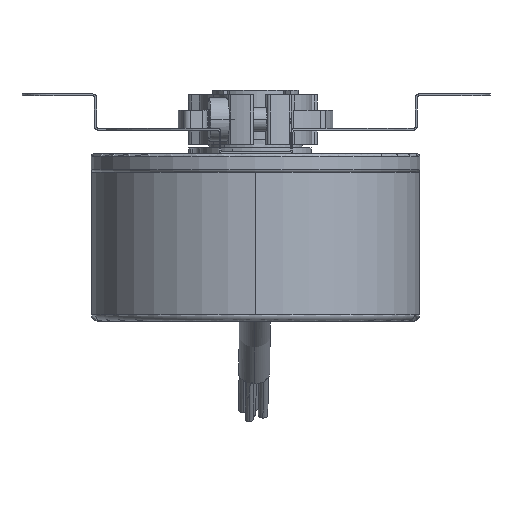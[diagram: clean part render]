
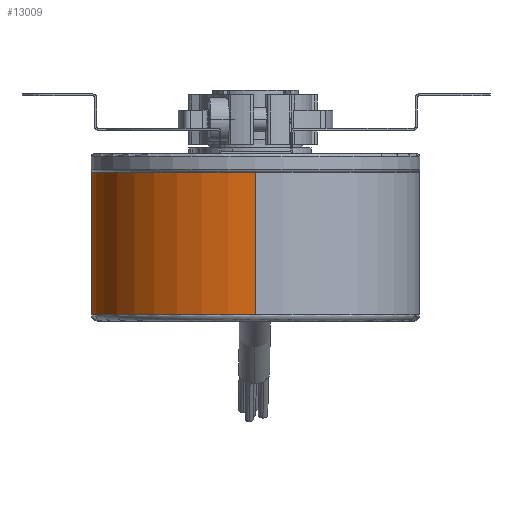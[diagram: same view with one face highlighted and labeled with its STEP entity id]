
A CAD part, front view. The second image highlights one B-rep face of the part: STEP entity #13009.
In plain terms, the highlighted cylindrical face has radius 26.5 mm (diameter 53 mm), a partial arc.
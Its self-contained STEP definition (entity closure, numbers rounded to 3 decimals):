
#1839 = VERTEX_POINT ( 'NONE', #14086 ) ;
#1869 = EDGE_CURVE ( 'NONE', #18700, #19446, #28511, .T. ) ;
#2781 = VECTOR ( 'NONE', #4037, 1000. ) ;
#2855 = CARTESIAN_POINT ( 'NONE',  ( 0.75, -26.489, -3.5 ) ) ;
#4037 = DIRECTION ( 'NONE',  ( 0., 0., -1. ) ) ;
#4682 = CARTESIAN_POINT ( 'NONE',  ( 0.75, -52.989, -3. ) ) ;
#5790 = AXIS2_PLACEMENT_3D ( 'NONE', #16590, #25920, #19585 ) ;
#6286 = DIRECTION ( 'NONE',  ( 0., 0., 1. ) ) ;
#7057 = VECTOR ( 'NONE', #23874, 1000. ) ;
#8068 = CYLINDRICAL_SURFACE ( 'NONE', #18836, 26.5 ) ;
#10882 = CARTESIAN_POINT ( 'NONE',  ( 0.75, -26.489, -3. ) ) ;
#11561 = EDGE_CURVE ( 'NONE', #11709, #19446, #18901, .T. ) ;
#11709 = VERTEX_POINT ( 'NONE', #4682 ) ;
#12200 = ORIENTED_EDGE ( 'NONE', *, *, #30205, .F. ) ;
#12223 = AXIS2_PLACEMENT_3D ( 'NONE', #10882, #6286, #23183 ) ;
#13009 = ADVANCED_FACE ( 'NONE', ( #17869 ), #8068, .T. ) ;
#13231 = ORIENTED_EDGE ( 'NONE', *, *, #11561, .F. ) ;
#14086 = CARTESIAN_POINT ( 'NONE',  ( -11.295, -2.885, -3. ) ) ;
#14242 = CARTESIAN_POINT ( 'NONE',  ( -11.295, -2.885, -3.5 ) ) ;
#16590 = CARTESIAN_POINT ( 'NONE',  ( 0.75, -26.489, -26. ) ) ;
#17706 = DIRECTION ( 'NONE',  ( 0., -1., 0. ) ) ;
#17869 = FACE_OUTER_BOUND ( 'NONE', #22153, .T. ) ;
#18016 = CARTESIAN_POINT ( 'NONE',  ( -11.295, -2.885, -26. ) ) ;
#18700 = VERTEX_POINT ( 'NONE', #18016 ) ;
#18836 = AXIS2_PLACEMENT_3D ( 'NONE', #2855, #22135, #17706 ) ;
#18901 = LINE ( 'NONE', #20804, #2781 ) ;
#19446 = VERTEX_POINT ( 'NONE', #29023 ) ;
#19585 = DIRECTION ( 'NONE',  ( 0., 1., 0. ) ) ;
#20804 = CARTESIAN_POINT ( 'NONE',  ( 0.75, -52.989, -3.5 ) ) ;
#21064 = ORIENTED_EDGE ( 'NONE', *, *, #23971, .T. ) ;
#22135 = DIRECTION ( 'NONE',  ( 0., 0., -1. ) ) ;
#22153 = EDGE_LOOP ( 'NONE', ( #13231, #12200, #21064, #23865 ) ) ;
#22307 = CIRCLE ( 'NONE', #12223, 26.5 ) ;
#23183 = DIRECTION ( 'NONE',  ( 0., 1., 0. ) ) ;
#23865 = ORIENTED_EDGE ( 'NONE', *, *, #1869, .T. ) ;
#23874 = DIRECTION ( 'NONE',  ( 0., 0., -1. ) ) ;
#23971 = EDGE_CURVE ( 'NONE', #1839, #18700, #26229, .T. ) ;
#25920 = DIRECTION ( 'NONE',  ( 0., 0., 1. ) ) ;
#26229 = LINE ( 'NONE', #14242, #7057 ) ;
#28511 = CIRCLE ( 'NONE', #5790, 26.5 ) ;
#29023 = CARTESIAN_POINT ( 'NONE',  ( 0.75, -52.989, -26. ) ) ;
#30205 = EDGE_CURVE ( 'NONE', #1839, #11709, #22307, .T. ) ;
